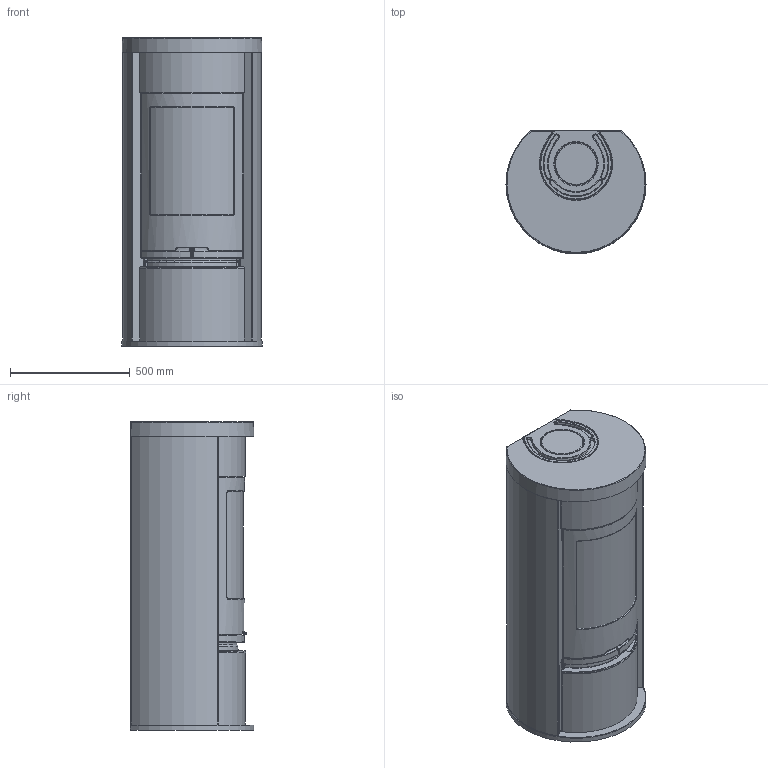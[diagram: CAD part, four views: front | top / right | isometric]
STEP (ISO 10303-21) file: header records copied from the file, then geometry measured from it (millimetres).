
FILE_DESCRIPTION(/* description */ ('Unknown'),/* implementation_level */ '2;1');
FILE_NAME(/* name */ 'C620 interior model-0',/* time_stamp */ '2017-06-27T10:43:09+02:00',/* author */ ('Unknown'),/* organization */ ('NIBE AB/Contura'),/* preprocessor_version */ 'ST-DEVELOPER v16.7',/* originating_system */ 'DEX',/* authorisation */ $);
FILE_SCHEMA (('AUTOMOTIVE_DESIGN {1 0 10303 214 3 1 1}'));
Length unit declared in the file: millimetre
Products named in the file (13): DSN1018731; DSN1018734; DSN1018413; DSN1018733; DSN1018424; DSN1018427; DSN1018735; DSN1018414; DSN1018411; DSN1018429; DSN1018732; DSN1018421; DSN1018433
Assembly tree (12 placements, depth 2):
  DSN1018731
    DSN1018734
    DSN1018413
    DSN1018733
    DSN1018424
    DSN1018427
    DSN1018735
    DSN1018414
    DSN1018411
    DSN1018429
    DSN1018732
    DSN1018421
    DSN1018433
Bounding box: 584.98 x 516.5 x 1288 mm (x, y, z)
Volume: 249879595.3 mm3; surface area: 10629252.6 mm2
Topology: 13 solids, 19 shells, 1100 faces, 2740 edges, 1737 vertices
Faces by surface type: plane 446, bspline 265, cylinder 241, torus 84, cone 41, sphere 23
Full cylindrical faces by diameter (mm): 170 x1, 172 x1, 205 x1, 210.655 x1
Entity records: 41409 total; most frequent: CARTESIAN_POINT 17323, ORIENTED_EDGE 5420, DIRECTION 4161, EDGE_CURVE 2710, VERTEX_POINT 1737, AXIS2_PLACEMENT_3D 1619, EDGE_LOOP 1197, FACE_BOUND 1197
